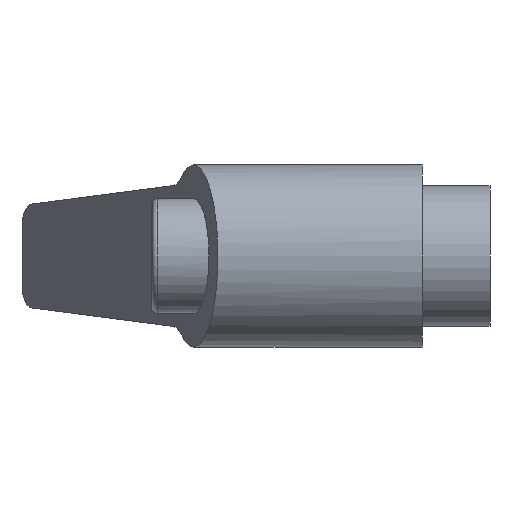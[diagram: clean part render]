
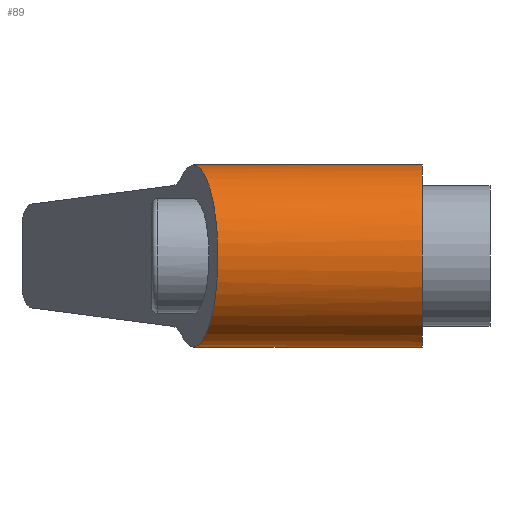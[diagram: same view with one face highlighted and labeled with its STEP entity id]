
A CAD part, left-side view. The second image highlights one B-rep face of the part: STEP entity #89.
In plain terms, the highlighted cylindrical face has radius 8.75 mm (diameter 17.5 mm), a full revolution.
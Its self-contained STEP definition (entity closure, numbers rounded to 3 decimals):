
#89 = ADVANCED_FACE( '', ( #134, #135 ), #136, .T. );
#134 = FACE_OUTER_BOUND( '', #192, .T. );
#135 = FACE_OUTER_BOUND( '', #193, .T. );
#136 = CYLINDRICAL_SURFACE( '', #194, 8.75 );
#192 = EDGE_LOOP( '', ( #314, #315, #316, #317 ) );
#193 = EDGE_LOOP( '', ( #318 ) );
#194 = AXIS2_PLACEMENT_3D( '', #319, #320, #321 );
#314 = ORIENTED_EDGE( '', *, *, #428, .T. );
#315 = ORIENTED_EDGE( '', *, *, #423, .T. );
#316 = ORIENTED_EDGE( '', *, *, #429, .F. );
#317 = ORIENTED_EDGE( '', *, *, #399, .F. );
#318 = ORIENTED_EDGE( '', *, *, #421, .T. );
#319 = CARTESIAN_POINT( '', ( 0., 38.5, 0. ) );
#320 = DIRECTION( '', ( 0., 1., 0. ) );
#321 = DIRECTION( '', ( 0., 0., -1. ) );
#399 = EDGE_CURVE( '', #458, #460, #461, .T. );
#421 = EDGE_CURVE( '', #498, #498, #499, .T. );
#423 = EDGE_CURVE( '', #503, #501, #504, .T. );
#428 = EDGE_CURVE( '', #458, #503, #512, .T. );
#429 = EDGE_CURVE( '', #460, #501, #513, .T. );
#458 = VERTEX_POINT( '', #549 );
#460 = VERTEX_POINT( '', #551 );
#461 = ELLIPSE( '', #552, 9.059, 8.75 );
#498 = VERTEX_POINT( '', #695 );
#499 = CIRCLE( '', #696, 8.75 );
#501 = VERTEX_POINT( '', #698 );
#503 = VERTEX_POINT( '', #709 );
#504 = CIRCLE( '', #710, 8.75 );
#512 = LINE( '', #739, #740 );
#513 = LINE( '', #741, #742 );
#549 = CARTESIAN_POINT( '', ( 4.377, 23.175, -7.577 ) );
#551 = CARTESIAN_POINT( '', ( 4.377, 23.175, 7.577 ) );
#552 = AXIS2_PLACEMENT_3D( '', #809, #810, #811 );
#695 = CARTESIAN_POINT( '', ( 8.75, 0., 0. ) );
#696 = AXIS2_PLACEMENT_3D( '', #836, #837, #838 );
#698 = CARTESIAN_POINT( '', ( 4.377, 8.45, 7.577 ) );
#709 = CARTESIAN_POINT( '', ( 4.377, 8.45, -7.577 ) );
#710 = AXIS2_PLACEMENT_3D( '', #839, #840, #841 );
#739 = CARTESIAN_POINT( '', ( 4.377, 38.5, -7.577 ) );
#740 = VECTOR( '', #845, 1000. );
#741 = CARTESIAN_POINT( '', ( 4.377, 38.5, 7.577 ) );
#742 = VECTOR( '', #846, 1000. );
#809 = CARTESIAN_POINT( '', ( 0., 22.002, 0. ) );
#810 = DIRECTION( '', ( -0.259, 0.966, 0. ) );
#811 = DIRECTION( '', ( -0.966, -0.259, 0. ) );
#836 = CARTESIAN_POINT( '', ( 0., 0., 0. ) );
#837 = DIRECTION( '', ( 0., 1., 0. ) );
#838 = DIRECTION( '', ( 1., 0., 0. ) );
#839 = CARTESIAN_POINT( '', ( 0., 8.45, 0. ) );
#840 = DIRECTION( '', ( 0., -1., 0. ) );
#841 = DIRECTION( '', ( 1., 0., 0. ) );
#845 = DIRECTION( '', ( 0., -1., 0. ) );
#846 = DIRECTION( '', ( 0., -1., 0. ) );
